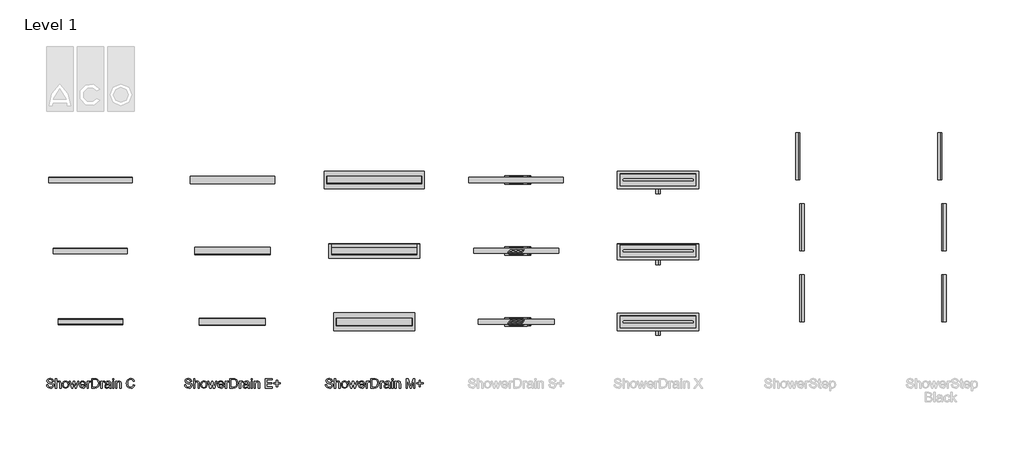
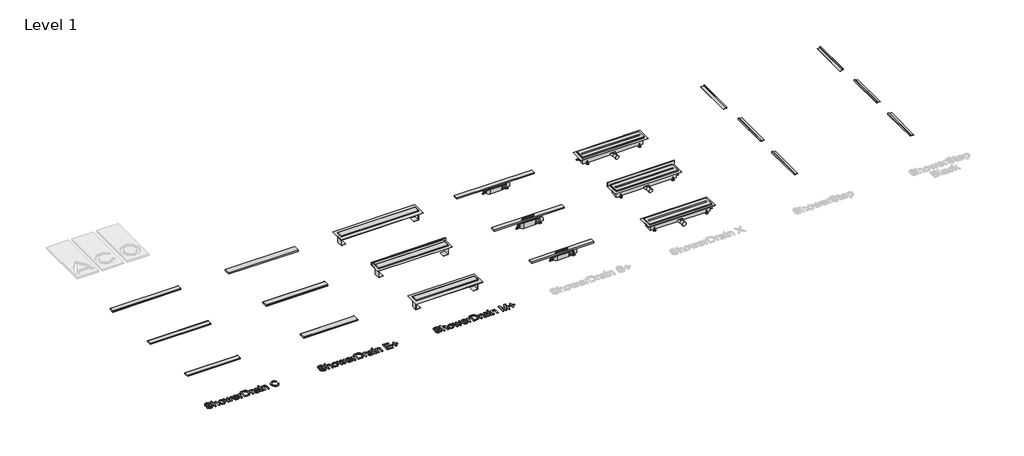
# One storey, part 1 of 2: 27 sanitary terminals, 3 proxies.
"""IFC4 building model written with IfcOpenShell, lengths in millimetres."""

from ifc_helpers import new_model, si_unit, origin, origin_with_axes, place, context, project, spatial, polyline, outline, extrude, transform, mapped, element, save
from components import sanitary_terminal_4bfb4d3e, sanitary_terminal_7881a989, sanitary_terminal_0af4ac13, flag_560d45e0, glass_grey_45471304, linear_b26b8363, piano_c74ceb65, quadrato_745113d3, square_67668155, tile_651425de, twist_b93bbfc6, wave_823838a0, horizontal_flange_18cf1d1b, horizontal_flange_fb927bfa, horizontal_flange_7aac90f1, horizontal_flange_18f63413, std_nested_3a278fe4, std_nested_2f341021, std_nested_42870411, std_nested_2facc37a, std_nested_d991f233, std_nested_00a3679f, wall_flange_95a8d4df, wall_flange_at_rear_d2ec3d99

model = new_model("IFC4")

# Units and contexts
model_context = context("Model", 3, world=origin())
ifc_project = project(units=[si_unit("LENGTHUNIT", "METRE", prefix="MILLI")], contexts=[model_context])

# Site, building, storey
site = spatial("IfcSite", under=ifc_project)
building = spatial("IfcBuilding", under=site)
storey = spatial("IfcBuildingStorey", under=building, Name="Level 1", Elevation=0.0)

# Proxies
placement = place(None, origin())
element("IfcBuildingElementProxy", 1, Name="100mm ACO", ObjectType="100mm ACO", at=placement, inside=storey, context=model_context, shape_type="SweptSolid", body=[
    extrude(outline(polyline([(597.2962963, -629.6296296), (595.2853009, -620.7356771), (590.8148148, -614.3663194), (574.4953704, -609.2592593), (558.8703704, -613.2378472), (554.3564815, -618.1242766), (552.8518519, -624.8263889), (557.322338, -634.8813657), (575.5081019, -641.1747685), (595.3431713, -646.6579861), (608.494213, -655.5844907), (612.5957755, -662.6663773), (613.962963, -671.8171296), (611.4564525, -683.6552373), (603.9369213, -693.3015046), (592.3881655, -699.714265), (577.7939815, -701.8518519), (559.8107639, -699.4791667), (547.0069444, -692.3611111), (539.1944444, -681.4670139), (536.1851852, -667.7662037), (549.1481481, -666.6666667), (551.7776331, -677.5426794), (557.9878472, -684.9971065), (566.8239294, -689.3048322), (577.3310185, -690.7407407), (594.4606481, -686.009838), (599.365162, -680.4361979), (601.0, -673.1770833), (599.3109086, -665.8492477), (594.2436343, -660.8217593), (570.9652778, -653.3709491), (556.754485, -649.0306713), (547.166088, -643.1568287), (541.7081887, -635.5287905), (539.8888889, -625.9259259), (542.1711516, -614.9305556), (549.0179398, -606.0185185), (559.7999132, -600.1157407), (573.8877315, -598.1481481), (588.4493634, -600.1302083), (599.8425926, -606.0763889), (607.3512731, -615.6684028), (610.2592593, -628.587963), (597.2962963, -629.6296296)])), origin_with_axes(), (0.0, 0.0, 1.0), 10.0),
    extrude(outline(polyline([(689.8888889, -700.0), (676.9259259, -700.0), (676.9259259, -653.2986111), (673.2366898, -639.7135417), (662.2268519, -635.1851852), (649.2928241, -640.5237269), (645.0176505, -647.9564525), (643.5925926, -659.5775463), (643.5925926, -700.0), (630.6296296, -700.0), (630.6296296, -600.0), (643.5925926, -600.0), (643.5925926, -635.8217593), (653.2931134, -628.3998843), (665.1493056, -625.9259259), (678.4305556, -628.7905093), (687.328125, -637.6012731), (689.8888889, -654.1087963), (689.8888889, -700.0)])), origin_with_axes(), (0.0, 0.0, 1.0), 10.0),
    extrude(outline(polyline([(738.0081019, -625.9259259), (751.1844618, -628.3203125), (761.8940972, -635.5034722), (769.0013021, -647.0992477), (771.3703704, -662.7314815), (768.8059896, -681.0040509), (761.1128472, -692.9976852), (750.2078993, -699.6383102), (738.0081019, -701.8518519), (725.4176794, -699.5768229), (714.6140046, -692.7517361), (707.1812789, -680.9859664), (704.7037037, -663.8888889), (707.0980903, -647.1715856), (714.28125, -635.3298611), (725.0017361, -628.2769097), (738.0081019, -625.9259259)]), holes=[polyline([(738.0081019, -692.5925926), (746.8152488, -690.5852141), (753.2135417, -684.5630787), (758.4074074, -663.4259259), (756.9389468, -651.1429398), (752.5335648, -642.3032407), (745.9652778, -636.9646991), (738.0081019, -635.1851852), (729.8953993, -636.9900174), (723.3813657, -642.4045139), (719.0953414, -651.3925058), (717.6666667, -663.9178241), (719.1206597, -676.3997396), (723.4826389, -685.3732639), (730.0219907, -690.7877604), (738.0081019, -692.5925926)])]), origin_with_axes(), (0.0, 0.0, 1.0), 10.0),
    extrude(outline(polyline([(875.537037, -627.7777778), (851.318287, -700.0), (839.0497685, -700.0), (828.5462963, -656.5972222), (827.244213, -650.7378472), (826.0, -644.3287037), (813.2395833, -700.0), (801.0, -700.0), (776.462963, -627.7777778), (788.0081019, -627.7777778), (805.6296296, -685.0115741), (807.7418981, -675.2604167), (818.7662037, -627.7777778), (833.349537, -627.7777778), (842.087963, -665.6539352), (846.1388889, -683.4490741), (863.9918981, -627.7777778), (875.537037, -627.7777778)])), origin_with_axes(), (0.0, 0.0, 1.0), 10.0),
    extrude(outline(polyline([(949.1481481, -666.6666667), (895.4444444, -666.6666667), (897.5169271, -677.7922454), (902.2297454, -685.9375), (909.0114294, -690.9288194), (917.2905093, -692.5925926), (928.9658565, -688.9033565), (936.1851852, -677.7777778), (949.1481481, -679.2824074), (944.7717014, -688.9033565), (937.8344907, -696.0069444), (928.5896991, -700.390625), (917.2905093, -701.8518519), (902.703559, -699.3453414), (891.697338, -691.8258102), (884.7854456, -679.9660012), (882.4814815, -664.4386574), (884.7022569, -648.900463), (891.3645833, -636.6030093), (902.0633681, -628.5951968), (916.3935185, -625.9259259), (931.6134259, -629.3836806), (944.041088, -641.1603009), (947.8713831, -651.6963252), (949.1481481, -666.6666667)]), holes=[polyline([(936.1851852, -657.4074074), (934.1018519, -647.2511574), (929.3564815, -640.3935185), (916.0752315, -635.1851852), (908.2193287, -636.7332176), (901.8969907, -641.3773148), (895.4444444, -657.4074074), (936.1851852, -657.4074074)])]), origin_with_axes(), (0.0, 0.0, 1.0), 10.0),
    extrude(outline(polyline([(1002.8518519, -628.7615741), (998.8009259, -637.037037), (990.2939815, -635.1851852), (984.4997106, -636.8127894), (980.3113426, -641.6956019), (976.9259259, -659.9247685), (976.9259259, -700.0), (963.962963, -700.0), (963.962963, -627.7777778), (975.0740741, -627.7777778), (975.0740741, -638.4837963), (982.0040509, -629.0653935), (990.4386574, -625.9259259), (1002.8518519, -628.7615741)])), origin_with_axes(), (0.0, 0.0, 1.0), 10.0),
    extrude(outline(polyline([(1012.1111111, -600.0), (1046.1388889, -600.0), (1061.5324074, -600.9259259), (1073.8587963, -605.4253472), (1084.1452546, -615.2777778), (1091.0752315, -629.7019676), (1093.5925926, -649.4502315), (1091.0028935, -669.5855035), (1083.2337963, -685.7783565), (1069.1495949, -696.4445891), (1047.6145833, -700.0), (1012.1111111, -700.0), (1012.1111111, -600.0)]), holes=[polyline([(1025.0740741, -688.8888889), (1046.3993056, -688.8888889), (1058.0457176, -688.0497685), (1068.4479167, -683.521412), (1077.171875, -671.4265046), (1080.6296296, -649.1608796), (1079.2986111, -634.8668981), (1074.4085648, -622.7575231), (1066.234375, -614.7569444), (1057.2355324, -611.6608796), (1045.994213, -611.1111111), (1025.0740741, -611.1111111), (1025.0740741, -688.8888889)])]), origin_with_axes(), (0.0, 0.0, 1.0), 10.0),
    extrude(outline(polyline([(1149.1481481, -628.7615741), (1145.0972222, -637.037037), (1136.5902778, -635.1851852), (1130.7960069, -636.8127894), (1126.6076389, -641.6956019), (1123.2222222, -659.9247685), (1123.2222222, -700.0), (1110.2592593, -700.0), (1110.2592593, -627.7777778), (1121.3703704, -627.7777778), (1121.3703704, -638.4837963), (1128.3003472, -629.0653935), (1136.7349537, -625.9259259), (1149.1481481, -628.7615741)])), origin_with_axes(), (0.0, 0.0, 1.0), 10.0),
    extrude(outline(polyline([(1219.5185185, -700.0), (1206.5555556, -700.0), (1202.8518519, -691.2615741), (1190.3590856, -699.2042824), (1176.8969907, -701.8518519), (1166.910735, -700.4050926), (1159.2899306, -696.0648148), (1154.4613715, -689.3518519), (1152.8518519, -680.787037), (1154.4288194, -672.479022), (1159.1597222, -665.7841435), (1167.7896412, -660.8904803), (1181.0636574, -657.9861111), (1192.40625, -656.25), (1202.8518519, -653.7037037), (1202.5190972, -645.6741898), (1200.5804398, -640.7986111), (1195.4155093, -636.7332176), (1185.837963, -635.1851852), (1173.7575231, -638.3246528), (1167.6666667, -650.0), (1154.7037037, -648.4085648), (1158.2591146, -638.599537), (1164.9322917, -631.568287), (1174.7160012, -627.3365162), (1187.6030093, -625.9259259), (1206.859375, -629.7887731), (1214.4114583, -639.1059028), (1215.8148148, -653.1539352), (1215.8148148, -669.6759259), (1216.3645833, -689.9305556), (1219.5185185, -700.0)]), holes=[polyline([(1202.8518519, -667.5925926), (1202.8518519, -662.962963), (1179.5734954, -668.287037), (1169.254485, -672.3451968), (1165.8148148, -680.5844907), (1169.5185185, -689.2071759), (1180.1956019, -692.5925926), (1196.0086806, -686.9212963), (1201.141059, -679.2534722), (1202.8518519, -667.5925926)])]), origin_with_axes(), (0.0, 0.0, 1.0), 10.0),
    extrude(outline(polyline([(1247.2962963, -612.962963), (1234.3333333, -612.962963), (1234.3333333, -600.0), (1247.2962963, -600.0), (1247.2962963, -612.962963)])), origin_with_axes(), (0.0, 0.0, 1.0), 10.0),
    extrude(outline(polyline([(1247.2962963, -700.0), (1234.3333333, -700.0), (1234.3333333, -627.7777778), (1247.2962963, -627.7777778), (1247.2962963, -700.0)])), origin_with_axes(), (0.0, 0.0, 1.0), 10.0),
    extrude(outline(polyline([(1325.0740741, -700.0), (1312.1111111, -700.0), (1312.1111111, -655.0347222), (1308.2482639, -639.4386574), (1297.4988426, -635.1851852), (1287.4728009, -637.9050926), (1280.759838, -645.5729167), (1278.7777778, -659.5775463), (1278.7777778, -700.0), (1265.8148148, -700.0), (1265.8148148, -627.7777778), (1276.9259259, -627.7777778), (1276.9259259, -637.818287), (1286.8217593, -628.8917824), (1300.0740741, -625.9259259), (1311.4456019, -627.9803241), (1320.2418981, -634.1290509), (1324.2494213, -642.8674769), (1325.0740741, -655.4108796), (1325.0740741, -700.0)])), origin_with_axes(), (0.0, 0.0, 1.0), 10.0),
    extrude(outline(polyline([(1467.6666667, -668.1712963), (1461.7530382, -682.9969618), (1452.634838, -693.5040509), (1440.8473669, -699.7649016), (1426.9259259, -701.8518519), (1406.0202546, -697.9962384), (1391.6828704, -686.4293981), (1383.3929398, -669.4372106), (1380.6296296, -649.3055556), (1383.8739873, -627.9188368), (1393.6070602, -611.7332176), (1408.4399595, -601.5444155), (1426.9837963, -598.1481481), (1440.2975984, -599.9602141), (1451.5353009, -605.396412), (1460.2050058, -614.3265336), (1465.8148148, -626.6203704), (1452.8518519, -629.6296296), (1442.9994213, -614.3663194), (1426.4918981, -609.2592593), (1412.2702546, -611.968316), (1401.9548611, -620.0954861), (1395.6831597, -632.7799479), (1393.5925926, -649.1608796), (1395.8061343, -667.5238715), (1402.4467593, -680.4832176), (1412.646412, -688.17636), (1425.537037, -690.7407407), (1436.1056134, -689.1239873), (1444.4895833, -684.2737269), (1450.6889468, -676.1754919), (1454.7037037, -664.8148148), (1467.6666667, -668.1712963)])), origin_with_axes(), (0.0, 0.0, 1.0), 10.0),
])
element("IfcBuildingElementProxy", 2, Name="100mm ACO", ObjectType="100mm ACO", at=placement, inside=storey, context=model_context, shape_type="SweptSolid", body=[
    extrude(outline(polyline([(2057.6831943, -629.2183251), (2055.660445, -620.2723888), (2051.1638295, -613.8658032), (2044.193348, -610.0131205), (2034.7490003, -608.728893), (2019.0326745, -612.7307352), (2014.4924026, -617.645725), (2012.9789786, -624.3870102), (2017.4755941, -634.5007569), (2035.7676511, -640.8309437), (2055.7186536, -646.3462099), (2068.9465612, -655.3248886), (2073.0720967, -662.4481678), (2074.4472752, -671.6524049), (2071.9261146, -683.5597045), (2064.3626328, -693.2623529), (2052.7463762, -699.712595), (2038.0668914, -701.8626757), (2019.9785645, -699.4761225), (2007.0999086, -692.3164629), (1999.2417457, -681.3586913), (1996.2148977, -667.5778019), (2009.2536273, -666.4718382), (2011.8984812, -677.4114197), (2018.1449931, -684.9094168), (2027.0327209, -689.2423205), (2037.6012224, -690.6866217), (2054.8309722, -685.9280675), (2059.7641523, -680.3218504), (2061.4085456, -673.0203073), (2059.7095817, -665.6496416), (2054.6126899, -660.5927682), (2031.1982749, -653.0984091), (2016.9044221, -648.7327631), (2007.2599823, -642.8245887), (2001.7701824, -635.1519658), (1999.9402491, -625.4929738), (2002.2358513, -614.4333371), (2009.1226579, -605.4692106), (2019.9676504, -599.5319319), (2034.1378099, -597.552839), (2048.7845524, -599.5464841), (2060.2443734, -605.5274192), (2067.796941, -615.175497), (2070.7219239, -628.1705701), (2057.6831943, -629.2183251)])), origin_with_axes(), (0.0, 0.0, 1.0), 10.0),
    extrude(outline(polyline([(2150.816977, -700.0), (2137.7782475, -700.0), (2137.7782475, -653.0256483), (2134.0674483, -639.3611762), (2122.9932595, -634.8063521), (2109.9836342, -640.1760968), (2105.6834728, -647.6522657), (2104.2500857, -659.341283), (2104.2500857, -700.0), (2091.2113561, -700.0), (2091.2113561, -599.4155147), (2104.2500857, -599.4155147), (2104.2500857, -635.4466469), (2114.0073046, -627.9813921), (2125.9327945, -625.4929738), (2139.2916714, -628.3743002), (2148.2412459, -637.2365618), (2150.816977, -653.8405689), (2150.816977, -700.0)])), origin_with_axes(), (0.0, 0.0, 1.0), 10.0),
    extrude(outline(polyline([(2199.2174397, -625.4929738), (2212.4708136, -627.9013552), (2223.2430452, -635.1264995), (2230.3917907, -646.7900506), (2232.7747058, -662.5136525), (2230.1953366, -680.8930224), (2222.457229, -692.9567577), (2211.4885432, -699.6361962), (2199.2174397, -701.8626757), (2186.5534281, -699.5743495), (2175.6866074, -692.7093711), (2168.2104386, -680.8748322), (2165.7183823, -663.6778247), (2168.1267637, -646.8628113), (2175.3519079, -634.9518736), (2186.1350537, -627.8576988), (2199.2174397, -625.4929738)]), holes=[polyline([(2199.2174397, -692.5492974), (2208.0760632, -690.5301861), (2214.5117531, -684.4728522), (2219.7359762, -663.2121558), (2218.2589327, -650.8573775), (2213.8278019, -641.9660117), (2207.2211242, -636.596267), (2199.2174397, -634.8063521), (2191.0573196, -636.6217333), (2184.5052125, -642.0678767), (2180.194137, -651.1084021), (2178.7571118, -663.7069291), (2180.2196033, -676.2617995), (2184.6070776, -685.2877728), (2191.184651, -690.7339162), (2199.2174397, -692.5492974)])]), origin_with_axes(), (0.0, 0.0, 1.0), 10.0),
    extrude(outline(polyline([(2337.5502114, -627.3556495), (2313.1899063, -700.0), (2300.8496801, -700.0), (2290.2848166, -656.3435394), (2288.9751228, -650.4499172), (2287.7236376, -644.0033131), (2274.8886382, -700.0), (2262.5775163, -700.0), (2237.8970639, -627.3556495), (2249.5096824, -627.3556495), (2267.2342054, -684.9239689), (2269.3588198, -675.1158174), (2280.4475608, -627.3556495), (2295.1161316, -627.3556495), (2303.9056324, -665.4531875), (2307.9802353, -683.3523363), (2325.9375928, -627.3556495), (2337.5502114, -627.3556495)])), origin_with_axes(), (0.0, 0.0, 1.0), 10.0),
    extrude(outline(polyline([(2411.5915686, -666.4718382), (2357.5739746, -666.4718382), (2359.6585706, -677.6624443), (2364.3989347, -685.8553068), (2371.2202566, -690.8757997), (2379.5477265, -692.5492974), (2391.2913144, -688.8384982), (2398.552839, -677.6478922), (2411.5915686, -679.1613161), (2407.1895422, -688.8384982), (2400.2117845, -695.9836056), (2390.9129584, -700.3929081), (2379.5477265, -701.8626757), (2364.8755177, -699.3415151), (2353.8049669, -691.7780332), (2346.8526755, -679.8489054), (2344.5352451, -664.2308066), (2346.7690006, -648.6017937), (2353.4702673, -636.2324632), (2364.2315849, -628.1778462), (2378.645493, -625.4929738), (2393.9543585, -628.9709385), (2406.4546584, -640.8163915), (2410.3073411, -651.4139973), (2411.5915686, -666.4718382)]), holes=[polyline([(2398.552839, -657.15846), (2396.4573289, -646.9428482), (2391.6842226, -640.0451274), (2378.3253456, -634.8063521), (2370.4235262, -636.3634325), (2364.0642351, -641.0346738), (2357.5739746, -657.15846), (2398.552839, -657.15846)])]), origin_with_axes(), (0.0, 0.0, 1.0), 10.0),
    extrude(outline(polyline([(2465.6091626, -628.3451959), (2461.5345596, -636.6690278), (2452.9778933, -634.8063521), (2447.1497558, -636.4434694), (2442.9369073, -641.3548212), (2439.5317034, -659.6905347), (2439.5317034, -700.0), (2426.4929738, -700.0), (2426.4929738, -627.3556495), (2437.6690278, -627.3556495), (2437.6690278, -638.1242431), (2444.6395093, -628.6507912), (2453.1234148, -625.4929738), (2465.6091626, -628.3451959)])), origin_with_axes(), (0.0, 0.0, 1.0), 10.0),
    extrude(outline(polyline([(2474.9225408, -599.4155147), (2509.149206, -599.4155147), (2524.6326974, -600.3468525), (2537.0311322, -604.8725723), (2547.3777134, -614.7825888), (2554.3481949, -629.2910859), (2556.8802696, -649.1547755), (2554.2754341, -669.4077352), (2546.4609277, -685.6952331), (2532.2944062, -696.4238083), (2510.6335256, -700.0), (2474.9225408, -700.0), (2474.9225408, -599.4155147)]), holes=[polyline([(2487.9612704, -688.8239461), (2509.4111448, -688.8239461), (2521.1256284, -687.9799212), (2531.5886268, -683.4250971), (2540.3635753, -671.2594967), (2543.84154, -648.8637324), (2542.5027419, -634.4862047), (2537.584114, -622.3060522), (2529.3621473, -614.2587113), (2520.3107078, -611.1445504), (2509.0036845, -610.5915686), (2487.9612704, -610.5915686), (2487.9612704, -688.8239461)])]), origin_with_axes(), (0.0, 0.0, 1.0), 10.0),
    extrude(outline(polyline([(2612.7605392, -628.3451959), (2608.6859363, -636.6690278), (2600.12927, -634.8063521), (2594.3011325, -636.4434694), (2590.088284, -641.3548212), (2586.6830801, -659.6905347), (2586.6830801, -700.0), (2573.6443505, -700.0), (2573.6443505, -627.3556495), (2584.8204044, -627.3556495), (2584.8204044, -638.1242431), (2591.790886, -628.6507912), (2600.2747915, -625.4929738), (2612.7605392, -628.3451959)])), origin_with_axes(), (0.0, 0.0, 1.0), 10.0),
    extrude(outline(polyline([(2683.5422141, -700.0), (2670.5034845, -700.0), (2666.7781332, -691.2104993), (2654.2123486, -699.1996316), (2640.6715697, -701.8626757), (2630.6269458, -700.4074603), (2622.9615989, -696.0418142), (2618.1048176, -689.289615), (2616.4858906, -680.6747401), (2618.0720753, -672.3181659), (2622.8306295, -665.5841569), (2631.5109891, -660.6618909), (2644.86259, -657.7405461), (2656.2714784, -655.9942877), (2666.7781332, -653.4331086), (2666.4434337, -645.3566634), (2664.4934451, -640.4525877), (2659.2983263, -636.3634325), (2649.6648006, -634.8063521), (2637.5137524, -637.9641694), (2631.3872958, -649.7077573), (2618.3485662, -648.1070205), (2621.9247579, -638.2406603), (2628.6369388, -631.1683137), (2638.4778326, -626.9118088), (2651.4401634, -625.4929738), (2670.8090797, -629.3783988), (2678.4053039, -638.7499857), (2679.8168628, -652.8801268), (2679.8168628, -669.4986862), (2680.3698446, -689.8717011), (2683.5422141, -700.0)]), holes=[polyline([(2666.7781332, -667.4031761), (2666.7781332, -662.7464869), (2643.3637182, -668.1016794), (2632.9843946, -672.1835585), (2629.5246201, -680.4710099), (2633.2499714, -689.1440935), (2643.9894608, -692.5492974), (2659.8949646, -686.8448532), (2665.0573411, -679.1322118), (2666.7781332, -667.4031761)])]), origin_with_axes(), (0.0, 0.0, 1.0), 10.0),
    extrude(outline(polyline([(2711.4823489, -612.4542443), (2698.4436193, -612.4542443), (2698.4436193, -599.4155147), (2711.4823489, -599.4155147), (2711.4823489, -612.4542443)])), origin_with_axes(), (0.0, 0.0, 1.0), 10.0),
    extrude(outline(polyline([(2711.4823489, -700.0), (2698.4436193, -700.0), (2698.4436193, -627.3556495), (2711.4823489, -627.3556495), (2711.4823489, -700.0)])), origin_with_axes(), (0.0, 0.0, 1.0), 10.0),
    extrude(outline(polyline([(2789.7147264, -700.0), (2776.6759968, -700.0), (2776.6759968, -654.7719068), (2772.7905718, -639.0846853), (2761.9783217, -634.8063521), (2751.8936793, -637.542157), (2745.1414801, -645.2547984), (2743.147835, -659.341283), (2743.147835, -700.0), (2730.1091054, -700.0), (2730.1091054, -627.3556495), (2741.2851594, -627.3556495), (2741.2851594, -637.4548441), (2751.2388324, -628.4761653), (2764.568605, -625.4929738), (2776.0065977, -627.5593796), (2784.8543071, -633.7440449), (2788.8852536, -642.5335456), (2789.7147264, -655.1502628), (2789.7147264, -700.0)])), origin_with_axes(), (0.0, 0.0, 1.0), 10.0),
    extrude(outline(polyline([(2923.8273735, -700.0), (2849.3203473, -700.0), (2849.3203473, -599.4155147), (2921.9646978, -599.4155147), (2921.9646978, -610.5915686), (2862.3590769, -610.5915686), (2862.3590769, -642.2570547), (2918.2393465, -642.2570547), (2918.2393465, -653.4331086), (2862.3590769, -653.4331086), (2862.3590769, -688.8239461), (2923.8273735, -688.8239461), (2923.8273735, -700.0)])), origin_with_axes(), (0.0, 0.0, 1.0), 10.0),
    extrude(outline(polyline([(3005.7851023, -657.15846), (2977.8449674, -657.15846), (2977.8449674, -685.0985948), (2964.8062379, -685.0985948), (2964.8062379, -657.15846), (2936.8661031, -657.15846), (2936.8661031, -644.1197304), (2964.8062379, -644.1197304), (2964.8062379, -616.1795956), (2977.8449674, -616.1795956), (2977.8449674, -644.1197304), (3005.7851023, -644.1197304), (3005.7851023, -657.15846)])), origin_with_axes(), (0.0, 0.0, 1.0), 10.0),
])
element("IfcBuildingElementProxy", 3, Name="100mm ACO", ObjectType="100mm ACO", at=placement, inside=storey, context=model_context, shape_type="SweptSolid", body=[
    extrude(outline(polyline([(3546.5071404, -629.2183251), (3544.4843911, -620.2723888), (3539.9877756, -613.8658032), (3533.0172941, -610.0131205), (3523.5729464, -608.728893), (3507.8566206, -612.7307352), (3503.3163487, -617.645725), (3501.8029247, -624.3870102), (3506.2995402, -634.5007569), (3524.5915972, -640.8309437), (3544.5425997, -646.3462099), (3557.7705073, -655.3248886), (3561.8960428, -662.4481678), (3563.2712213, -671.6524049), (3560.7500607, -683.5597045), (3553.1865789, -693.2623529), (3541.5703223, -699.712595), (3526.8908374, -701.8626757), (3508.8025106, -699.4761225), (3495.9238547, -692.3164629), (3488.0656918, -681.3586913), (3485.0388438, -667.5778019), (3498.0775734, -666.4718382), (3500.7224273, -677.4114197), (3506.9689392, -684.9094168), (3515.856667, -689.2423205), (3526.4251685, -690.6866217), (3543.6549183, -685.9280675), (3548.5880984, -680.3218504), (3550.2324917, -673.0203073), (3548.5335278, -665.6496416), (3543.436636, -660.5927682), (3520.022221, -653.0984091), (3505.7283681, -648.7327631), (3496.0839284, -642.8245887), (3490.5941284, -635.1519658), (3488.7641951, -625.4929738), (3491.0597974, -614.4333371), (3497.946604, -605.4692106), (3508.7915965, -599.5319319), (3522.961756, -597.552839), (3537.6084985, -599.5464841), (3549.0683194, -605.5274192), (3556.6208871, -615.175497), (3559.54587, -628.1705701), (3546.5071404, -629.2183251)])), origin_with_axes(), (0.0, 0.0, 1.0), 10.0),
    extrude(outline(polyline([(3639.6409231, -700.0), (3626.6021935, -700.0), (3626.6021935, -653.0256483), (3622.8913944, -639.3611762), (3611.8172055, -634.8063521), (3598.8075803, -640.1760968), (3594.5074189, -647.6522657), (3593.0740318, -659.341283), (3593.0740318, -700.0), (3580.0353022, -700.0), (3580.0353022, -599.4155147), (3593.0740318, -599.4155147), (3593.0740318, -635.4466469), (3602.8312507, -627.9813921), (3614.7567405, -625.4929738), (3628.1156175, -628.3743002), (3637.0651919, -637.2365618), (3639.6409231, -653.8405689), (3639.6409231, -700.0)])), origin_with_axes(), (0.0, 0.0, 1.0), 10.0),
    extrude(outline(polyline([(3688.0413858, -625.4929738), (3701.2947597, -627.9013552), (3712.0669913, -635.1264995), (3719.2157367, -646.7900506), (3721.5986519, -662.5136525), (3719.0192827, -680.8930224), (3711.281175, -692.9567577), (3700.3124893, -699.6361962), (3688.0413858, -701.8626757), (3675.3773742, -699.5743495), (3664.5105535, -692.7093711), (3657.0343846, -680.8748322), (3654.5423283, -663.6778247), (3656.9507098, -646.8628113), (3664.175854, -634.9518736), (3674.9589998, -627.8576988), (3688.0413858, -625.4929738)]), holes=[polyline([(3688.0413858, -692.5492974), (3696.9000093, -690.5301861), (3703.3356992, -684.4728522), (3708.5599223, -663.2121558), (3707.0828787, -650.8573775), (3702.651748, -641.9660117), (3696.0450703, -636.596267), (3688.0413858, -634.8063521), (3679.8812657, -636.6217333), (3673.3291586, -642.0678767), (3669.0180831, -651.1084021), (3667.5810579, -663.7069291), (3669.0435494, -676.2617995), (3673.4310236, -685.2877728), (3680.0085971, -690.7339162), (3688.0413858, -692.5492974)])]), origin_with_axes(), (0.0, 0.0, 1.0), 10.0),
    extrude(outline(polyline([(3826.3741574, -627.3556495), (3802.0138524, -700.0), (3789.6736262, -700.0), (3779.1087627, -656.3435394), (3777.7990689, -650.4499172), (3776.5475837, -644.0033131), (3763.7125843, -700.0), (3751.4014624, -700.0), (3726.7210099, -627.3556495), (3738.3336285, -627.3556495), (3756.0581515, -684.9239689), (3758.1827659, -675.1158174), (3769.2715069, -627.3556495), (3783.9400777, -627.3556495), (3792.7295784, -665.4531875), (3796.8041814, -683.3523363), (3814.7615389, -627.3556495), (3826.3741574, -627.3556495)])), origin_with_axes(), (0.0, 0.0, 1.0), 10.0),
    extrude(outline(polyline([(3900.4155147, -666.4718382), (3846.3979207, -666.4718382), (3848.4825167, -677.6624443), (3853.2228807, -685.8553068), (3860.0442027, -690.8757997), (3868.3716726, -692.5492974), (3880.1152605, -688.8384982), (3887.3767851, -677.6478922), (3900.4155147, -679.1613161), (3896.0134882, -688.8384982), (3889.0357306, -695.9836056), (3879.7369045, -700.3929081), (3868.3716726, -701.8626757), (3853.6994638, -699.3415151), (3842.6289129, -691.7780332), (3835.6766216, -679.8489054), (3833.3591911, -664.2308066), (3835.5929467, -648.6017937), (3842.2942134, -636.2324632), (3853.055531, -628.1778462), (3867.469439, -625.4929738), (3882.7783046, -628.9709385), (3895.2786045, -640.8163915), (3899.1312871, -651.4139973), (3900.4155147, -666.4718382)]), holes=[polyline([(3887.3767851, -657.15846), (3885.281275, -646.9428482), (3880.5081686, -640.0451274), (3867.1492917, -634.8063521), (3859.2474723, -636.3634325), (3852.8881812, -641.0346738), (3846.3979207, -657.15846), (3887.3767851, -657.15846)])]), origin_with_axes(), (0.0, 0.0, 1.0), 10.0),
    extrude(outline(polyline([(3954.4331086, -628.3451959), (3950.3585057, -636.6690278), (3941.8018394, -634.8063521), (3935.9737019, -636.4434694), (3931.7608534, -641.3548212), (3928.3556495, -659.6905347), (3928.3556495, -700.0), (3915.3169199, -700.0), (3915.3169199, -627.3556495), (3926.4929738, -627.3556495), (3926.4929738, -638.1242431), (3933.4634554, -628.6507912), (3941.9473609, -625.4929738), (3954.4331086, -628.3451959)])), origin_with_axes(), (0.0, 0.0, 1.0), 10.0),
    extrude(outline(polyline([(3963.7464869, -599.4155147), (3997.9731521, -599.4155147), (4013.4566434, -600.3468525), (4025.8550783, -604.8725723), (4036.2016594, -614.7825888), (4043.172141, -629.2910859), (4045.7042157, -649.1547755), (4043.0993802, -669.4077352), (4035.2848738, -685.6952331), (4021.1183523, -696.4238083), (3999.4574717, -700.0), (3963.7464869, -700.0), (3963.7464869, -599.4155147)]), holes=[polyline([(3976.7852165, -688.8239461), (3998.2350908, -688.8239461), (4009.9495744, -687.9799212), (4020.4125728, -683.4250971), (4029.1875214, -671.2594967), (4032.6654861, -648.8637324), (4031.326688, -634.4862047), (4026.4080601, -622.3060522), (4018.1860933, -614.2587113), (4009.1346538, -611.1445504), (3997.8276305, -610.5915686), (3976.7852165, -610.5915686), (3976.7852165, -688.8239461)])]), origin_with_axes(), (0.0, 0.0, 1.0), 10.0),
    extrude(outline(polyline([(4101.5844853, -628.3451959), (4097.5098823, -636.6690278), (4088.953216, -634.8063521), (4083.1250785, -636.4434694), (4078.9122301, -641.3548212), (4075.5070262, -659.6905347), (4075.5070262, -700.0), (4062.4682966, -700.0), (4062.4682966, -627.3556495), (4073.6443505, -627.3556495), (4073.6443505, -638.1242431), (4080.6148321, -628.6507912), (4089.0987376, -625.4929738), (4101.5844853, -628.3451959)])), origin_with_axes(), (0.0, 0.0, 1.0), 10.0),
    extrude(outline(polyline([(4172.3661602, -700.0), (4159.3274306, -700.0), (4155.6020793, -691.2104993), (4143.0362947, -699.1996316), (4129.4955158, -701.8626757), (4119.4508918, -700.4074603), (4111.785545, -696.0418142), (4106.9287637, -689.289615), (4105.3098366, -680.6747401), (4106.8960214, -672.3181659), (4111.6545756, -665.5841569), (4120.3349352, -660.6618909), (4133.686536, -657.7405461), (4145.0954244, -655.9942877), (4155.6020793, -653.4331086), (4155.2673798, -645.3566634), (4153.3173912, -640.4525877), (4148.1222724, -636.3634325), (4138.4887467, -634.8063521), (4126.3376985, -637.9641694), (4120.2112419, -649.7077573), (4107.1725123, -648.1070205), (4110.748704, -638.2406603), (4117.4608848, -631.1683137), (4127.3017787, -626.9118088), (4140.2641094, -625.4929738), (4159.6330258, -629.3783988), (4167.22925, -638.7499857), (4168.6408089, -652.8801268), (4168.6408089, -669.4986862), (4169.1937907, -689.8717011), (4172.3661602, -700.0)]), holes=[polyline([(4155.6020793, -667.4031761), (4155.6020793, -662.7464869), (4132.1876642, -668.1016794), (4121.8083407, -672.1835585), (4118.3485662, -680.4710099), (4122.0739175, -689.1440935), (4132.8134068, -692.5492974), (4148.7189107, -686.8448532), (4153.8812871, -679.1322118), (4155.6020793, -667.4031761)])]), origin_with_axes(), (0.0, 0.0, 1.0), 10.0),
    extrude(outline(polyline([(4200.306295, -612.4542443), (4187.2675654, -612.4542443), (4187.2675654, -599.4155147), (4200.306295, -599.4155147), (4200.306295, -612.4542443)])), origin_with_axes(), (0.0, 0.0, 1.0), 10.0),
    extrude(outline(polyline([(4200.306295, -700.0), (4187.2675654, -700.0), (4187.2675654, -627.3556495), (4200.306295, -627.3556495), (4200.306295, -700.0)])), origin_with_axes(), (0.0, 0.0, 1.0), 10.0),
    extrude(outline(polyline([(4278.5386725, -700.0), (4265.4999429, -700.0), (4265.4999429, -654.7719068), (4261.6145179, -639.0846853), (4250.8022678, -634.8063521), (4240.7176254, -637.542157), (4233.9654261, -645.2547984), (4231.9717811, -659.341283), (4231.9717811, -700.0), (4218.9330515, -700.0), (4218.9330515, -627.3556495), (4230.1091054, -627.3556495), (4230.1091054, -637.4548441), (4240.0627785, -628.4761653), (4253.3925511, -625.4929738), (4264.8305438, -627.5593796), (4273.6782532, -633.7440449), (4277.7091997, -642.5335456), (4278.5386725, -655.1502628), (4278.5386725, -700.0)])), origin_with_axes(), (0.0, 0.0, 1.0), 10.0),
    extrude(outline(polyline([(4431.2780761, -700.0), (4418.2393465, -700.0), (4418.2393465, -615.7139267), (4392.5693477, -700.0), (4378.7156975, -700.0), (4351.561379, -614.3460242), (4351.183023, -700.0), (4338.1442934, -700.0), (4338.1442934, -599.4155147), (4357.9643265, -599.4155147), (4380.9276248, -670.6919628), (4385.3805838, -685.593368), (4390.4156289, -669.4695819), (4411.8946076, -599.4155147), (4431.2780761, -599.4155147), (4431.2780761, -700.0)])), origin_with_axes(), (0.0, 0.0, 1.0), 10.0),
    extrude(outline(polyline([(4516.9611562, -657.15846), (4489.0210214, -657.15846), (4489.0210214, -685.0985948), (4475.9822918, -685.0985948), (4475.9822918, -657.15846), (4448.042157, -657.15846), (4448.042157, -644.1197304), (4475.9822918, -644.1197304), (4475.9822918, -616.1795956), (4489.0210214, -616.1795956), (4489.0210214, -644.1197304), (4516.9611562, -644.1197304), (4516.9611562, -657.15846)])), origin_with_axes(), (0.0, 0.0, 1.0), 10.0),
])

# Sanitary terminals
sanitary_terminal_shape = sanitary_terminal_4bfb4d3e(model_context)
element("IfcSanitaryTerminal", 4, ObjectType="PF_UN_ShowerDrain S+_ACO : watertrap H=30", at=placement, inside=storey, context=model_context, shape_type="MappedRepresentation", body=[
    mapped(sanitary_terminal_shape, transform((5501.0, 0.0, 0.0), x_axis=(1.0, 0.0, 0.0), y_axis=(0.0, 1.0, 0.0), z_axis=(0.0, 0.0, 1.0))),
])
sanitary_terminal_2_shape = sanitary_terminal_7881a989(model_context)
element("IfcSanitaryTerminal", 5, ObjectType="PF_UN_ShowerDrain S+_ACO : watertrap H=50", at=placement, inside=storey, context=model_context, shape_type="MappedRepresentation", body=[
    mapped(sanitary_terminal_2_shape, transform((5501.0, 750.0, 0.0), x_axis=(1.0, 0.0, 0.0), y_axis=(0.0, 1.0, 0.0), z_axis=(0.0, 0.0, 1.0))),
])
sanitary_terminal_3_shape = sanitary_terminal_0af4ac13(model_context)
element("IfcSanitaryTerminal", 6, ObjectType="PF_UN_ShowerDrain S+_ACO : watertrap H=30", at=placement, inside=storey, context=model_context, shape_type="MappedRepresentation", body=[
    mapped(sanitary_terminal_3_shape, transform((5501.0, 1500.0, 0.0), x_axis=(1.0, 0.0, 0.0), y_axis=(0.0, 1.0, 0.0), z_axis=(0.0, 0.0, 1.0))),
])
flag_shape = flag_560d45e0(model_context)
element("IfcSanitaryTerminal", 7, ObjectType="ZZZ_do not use_PF_UN_grating for ShowerDrain E and M series_ACO : Flag", at=placement, inside=storey, context=model_context, shape_type="MappedRepresentation", body=[
    mapped(flag_shape, transform((4001.0, 1500.0, 15.0), x_axis=(1.0, 0.0, 0.0), y_axis=(0.0, 1.0, 0.0), z_axis=(0.0, 0.0, 1.0))),
])
glass_grey_shape = glass_grey_45471304(model_context)
element("IfcSanitaryTerminal", 8, ObjectType="ZZZ_do not use_PF_UN_grating for ShowerDrain E and M series_ACO : Glass grey", at=placement, inside=storey, context=model_context, shape_type="MappedRepresentation", body=[
    mapped(glass_grey_shape, transform((4001.0, 0.0, 15.0), x_axis=(1.0, 0.0, 0.0), y_axis=(0.0, 1.0, 0.0), z_axis=(0.0, 0.0, 1.0))),
])
linear_shape = linear_b26b8363(model_context)
element("IfcSanitaryTerminal", 9, ObjectType="ZZZ_do not use_PF_UN_grating for ShowerDrain E and M series_ACO : Linear", at=placement, inside=storey, context=model_context, shape_type="MappedRepresentation", body=[
    mapped(linear_shape, transform((4001.0, 750.0, 15.0), x_axis=(1.0, 0.0, 0.0), y_axis=(0.0, 1.0, 0.0), z_axis=(0.0, 0.0, 1.0))),
])
piano_shape = piano_c74ceb65(model_context)
element("IfcSanitaryTerminal", 10, ObjectType="ZZZ_do not use_PF_UN_grating for ShowerDrain E and M series_ACO : Piano", at=placement, inside=storey, context=model_context, shape_type="MappedRepresentation", body=[
    mapped(piano_shape, transform((2501.0, 0.0, 15.0), x_axis=(1.0, 0.0, 0.0), y_axis=(0.0, 1.0, 0.0), z_axis=(0.0, 0.0, 1.0))),
])
quadrato_shape = quadrato_745113d3(model_context)
element("IfcSanitaryTerminal", 11, ObjectType="ZZZ_do not use_PF_UN_grating for ShowerDrain E and M series_ACO : Quadrato", at=placement, inside=storey, context=model_context, shape_type="MappedRepresentation", body=[
    mapped(quadrato_shape, transform((2501.0, 750.0, 15.0), x_axis=(1.0, 0.0, 0.0), y_axis=(0.0, 1.0, 0.0), z_axis=(0.0, 0.0, 1.0))),
])
square_shape = square_67668155(model_context)
element("IfcSanitaryTerminal", 12, ObjectType="ZZZ_do not use_PF_UN_grating ShowerDrain C (GE)_ACO : Square", at=placement, inside=storey, context=model_context, shape_type="MappedRepresentation", body=[
    mapped(square_shape, transform((1000.0, 750.0, 12.0), x_axis=(1.0, 0.0, 0.0), y_axis=(0.0, 1.0, 0.0), z_axis=(0.0, 0.0, 1.0))),
])
tile_shape = tile_651425de(model_context)
element("IfcSanitaryTerminal", 13, ObjectType="ZZZ_do not use_PF_UN_grating ShowerDrain C (GE)_ACO : Tile", at=placement, inside=storey, context=model_context, shape_type="MappedRepresentation", body=[
    mapped(tile_shape, transform((1000.0, 1500.0, 12.0), x_axis=(1.0, 0.0, 0.0), y_axis=(0.0, 1.0, 0.0), z_axis=(0.0, 0.0, 1.0))),
])
twist_shape = twist_b93bbfc6(model_context)
element("IfcSanitaryTerminal", 14, ObjectType="ZZZ_do not use_PF_UN_grating for ShowerDrain E and M series_ACO : Twist", at=placement, inside=storey, context=model_context, shape_type="MappedRepresentation", body=[
    mapped(twist_shape, transform((2501.0, 1500.0, 15.0), x_axis=(1.0, 0.0, 0.0), y_axis=(0.0, 1.0, 0.0), z_axis=(0.0, 0.0, 1.0))),
])
ifc_wave_shape = wave_823838a0(model_context)
element("IfcSanitaryTerminal", 15, ObjectType="ZZZ_do not use_PF_UN_grating ShowerDrain C (GE)_ACO : Wave", at=placement, inside=storey, context=model_context, shape_type="MappedRepresentation", body=[
    mapped(ifc_wave_shape, transform((1000.0, 0.0, 12.0), x_axis=(1.0, 0.0, 0.0), y_axis=(0.0, 1.0, 0.0), z_axis=(0.0, 0.0, 1.0))),
])
horizontal_flange_shape = horizontal_flange_18cf1d1b(model_context)
element("IfcSanitaryTerminal", 16, ObjectType="PF_UN_ShowerDrain M plus_ACO : horizontal flange", at=placement, inside=storey, context=model_context, shape_type="MappedRepresentation", body=[
    mapped(horizontal_flange_shape, transform((4001.0, 1500.0, 0.0), x_axis=(1.0, 0.0, 0.0), y_axis=(0.0, 1.0, 0.0), z_axis=(0.0, 0.0, 1.0))),
])
horizontal_flange_2_shape = horizontal_flange_fb927bfa(model_context)
element("IfcSanitaryTerminal", 17, ObjectType="PF_UN_ShowerDrain X_ACO : horizontal flange", at=placement, inside=storey, context=model_context, shape_type="MappedRepresentation", body=[
    mapped(horizontal_flange_2_shape, transform((7001.0, 0.0, 0.0), x_axis=(1.0, 0.0, 0.0), y_axis=(0.0, 1.0, 0.0), z_axis=(0.0, 0.0, 1.0))),
])
horizontal_flange_3_shape = horizontal_flange_7aac90f1(model_context)
element("IfcSanitaryTerminal", 18, ObjectType="PF_UN_ShowerDrain M plus_ACO : horizontal flange", at=placement, inside=storey, context=model_context, shape_type="MappedRepresentation", body=[
    mapped(horizontal_flange_3_shape, transform((4001.0, 0.0, 0.0), x_axis=(1.0, 0.0, 0.0), y_axis=(0.0, 1.0, 0.0), z_axis=(0.0, 0.0, 1.0))),
])
horizontal_flange_4_shape = horizontal_flange_18f63413(model_context)
element("IfcSanitaryTerminal", 19, ObjectType="PF_UN_ShowerDrain X_ACO : horizontal flange", at=placement, inside=storey, context=model_context, shape_type="MappedRepresentation", body=[
    mapped(horizontal_flange_4_shape, transform((7001.0, 1500.0, 0.0), x_axis=(1.0, 0.0, 0.0), y_axis=(0.0, 1.0, 0.0), z_axis=(0.0, 0.0, 1.0))),
])
std_nested_shape = std_nested_3a278fe4(model_context)
element("IfcSanitaryTerminal", 20, ObjectType="ZZZ_do not use_PF_UN_ShowerStep_ACO : std (nested)", at=placement, inside=storey, context=model_context, shape_type="MappedRepresentation", body=[
    mapped(std_nested_shape, transform((8501.0, 0.0, 0.0), x_axis=(0.0, 1.0, 0.0), y_axis=(-1.0, 0.0, 0.0), z_axis=(0.0, 0.0, 1.0))),
])
std_nested_2_shape = std_nested_2f341021(model_context)
element("IfcSanitaryTerminal", 21, ObjectType="ZZZ_do not use_PF_UN_ShowerStep_ACO : std (nested)", at=placement, inside=storey, context=model_context, shape_type="MappedRepresentation", body=[
    mapped(std_nested_2_shape, transform((8501.0, 750.0, 0.0), x_axis=(0.0, 1.0, 0.0), y_axis=(-1.0, 0.0, 0.0), z_axis=(0.0, 0.0, 1.0))),
])
std_nested_3_shape = std_nested_42870411(model_context)
element("IfcSanitaryTerminal", 22, ObjectType="ZZZ_do not use_PF_UN_ShowerStep_ACO : std (nested)", at=placement, inside=storey, context=model_context, shape_type="MappedRepresentation", body=[
    mapped(std_nested_3_shape, transform((8501.0, 1500.0, 0.0), x_axis=(0.0, 1.0, 0.0), y_axis=(-1.0, 0.0, 0.0), z_axis=(0.0, 0.0, 1.0))),
])
std_nested_4_shape = std_nested_2facc37a(model_context)
element("IfcSanitaryTerminal", 23, ObjectType="ZZZ_do not use_PF_WPB_floor drain ShowerDrain S+_ACO : std (nested)", at=placement, inside=storey, context=model_context, shape_type="MappedRepresentation", body=[
    mapped(std_nested_4_shape, transform((5501.0, 0.0, -15.0), x_axis=(1.0, 0.0, 0.0), y_axis=(0.0, 1.0, 0.0), z_axis=(0.0, 0.0, 1.0))),
])
element("IfcSanitaryTerminal", 24, ObjectType="ZZZ_do not use_PF_WPB_floor drain ShowerDrain S+_ACO : std (nested)", at=placement, inside=storey, context=model_context, shape_type="MappedRepresentation", body=[
    mapped(std_nested_4_shape, transform((5501.0, 1500.0, -15.0), x_axis=(1.0, 0.0, 0.0), y_axis=(0.0, 1.0, 0.0), z_axis=(0.0, 0.0, 1.0))),
])
std_nested_5_shape = std_nested_d991f233(model_context)
element("IfcSanitaryTerminal", 25, ObjectType="ZZZ_do not use_PF_WPB_floor drain ShowerDrain S+_ACO : std (nested)", at=placement, inside=storey, context=model_context, shape_type="MappedRepresentation", body=[
    mapped(std_nested_5_shape, transform((5501.0, 750.0, -15.0), x_axis=(1.0, 0.0, 0.0), y_axis=(0.0, 1.0, 0.0), z_axis=(0.0, 0.0, 1.0))),
])
element("IfcSanitaryTerminal", 26, ObjectType="ZZZ_do not use_PF_UN_ShowerStep Black_ACO : std(nested)", at=placement, inside=storey, context=model_context, shape_type="MappedRepresentation", body=[
    mapped(std_nested_2_shape, transform((10001.0, 0.0, 0.0), x_axis=(0.0, 1.0, 0.0), y_axis=(-1.0, 0.0, 0.0), z_axis=(0.0, 0.0, 1.0))),
])
element("IfcSanitaryTerminal", 27, ObjectType="ZZZ_do not use_PF_UN_ShowerStep Black_ACO : std(nested)", at=placement, inside=storey, context=model_context, shape_type="MappedRepresentation", body=[
    mapped(std_nested_shape, transform((10001.0, 750.0, 0.0), x_axis=(0.0, 1.0, 0.0), y_axis=(-1.0, 0.0, 0.0), z_axis=(0.0, 0.0, 1.0))),
])
std_nested_6_shape = std_nested_00a3679f(model_context)
element("IfcSanitaryTerminal", 28, ObjectType="ZZZ_do not use_PF_UN_ShowerStep Black_ACO : std(nested)", at=placement, inside=storey, context=model_context, shape_type="MappedRepresentation", body=[
    mapped(std_nested_6_shape, transform((10001.0, 1500.0, 0.0), x_axis=(0.0, 1.0, 0.0), y_axis=(-1.0, 0.0, 0.0), z_axis=(0.0, 0.0, 1.0))),
])
wall_flange_shape = wall_flange_95a8d4df(model_context)
element("IfcSanitaryTerminal", 29, ObjectType="PF_UN_ShowerDrain X_ACO : wall flange", at=placement, inside=storey, context=model_context, shape_type="MappedRepresentation", body=[
    mapped(wall_flange_shape, transform((7001.0, 750.0, 0.0), x_axis=(1.0, 0.0, 0.0), y_axis=(0.0, 1.0, 0.0), z_axis=(0.0, 0.0, 1.0))),
])
wall_flange_at_rear_shape = wall_flange_at_rear_d2ec3d99(model_context)
element("IfcSanitaryTerminal", 30, ObjectType="PF_UN_ShowerDrain M plus_ACO : wall flange at rear", at=placement, inside=storey, context=model_context, shape_type="MappedRepresentation", body=[
    mapped(wall_flange_at_rear_shape, transform((4001.0, 750.0, 0.0), x_axis=(1.0, 0.0, 0.0), y_axis=(0.0, 1.0, 0.0), z_axis=(0.0, 0.0, 1.0))),
])

save(model, "model.ifc")
